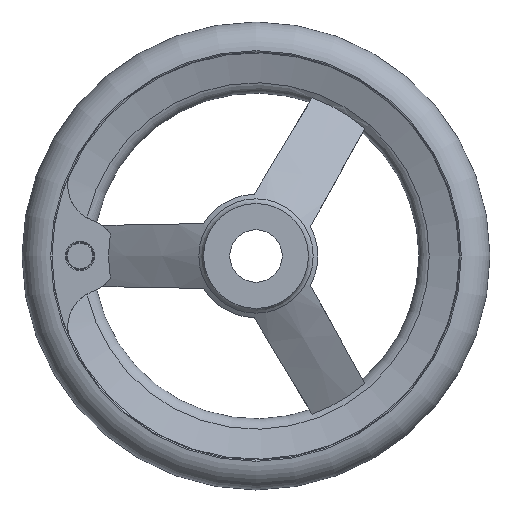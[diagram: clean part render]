
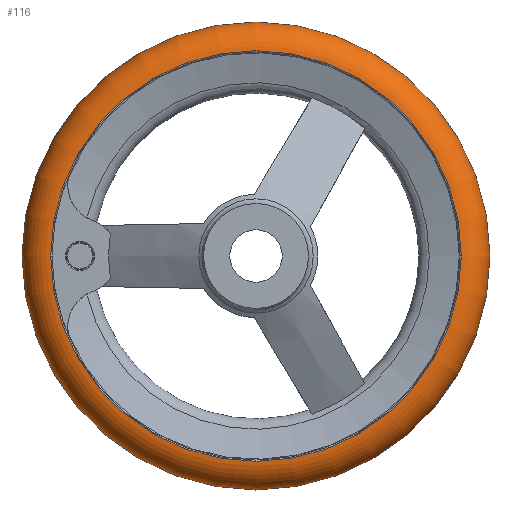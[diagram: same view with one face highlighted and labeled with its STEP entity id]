
A CAD part, left-side view. The second image highlights one B-rep face of the part: STEP entity #116.
In plain terms, the highlighted toroidal (fillet/blend) face has major radius 54.493 mm and minor radius 8.007 mm.
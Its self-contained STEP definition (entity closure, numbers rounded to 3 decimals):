
#116 = ADVANCED_FACE( '', ( #229, #230, #231 ), #232, .T. );
#229 = FACE_BOUND( '', #384, .T. );
#230 = FACE_OUTER_BOUND( '', #385, .T. );
#231 = FACE_OUTER_BOUND( '', #386, .T. );
#232 = TOROIDAL_SURFACE( '', #387, 54.493, 8.007 );
#384 = VERTEX_LOOP( '', #701 );
#385 = EDGE_LOOP( '', ( #702 ) );
#386 = EDGE_LOOP( '', ( #703 ) );
#387 = AXIS2_PLACEMENT_3D( '', #704, #705, #706 );
#701 = VERTEX_POINT( '', #828 );
#702 = ORIENTED_EDGE( '', *, *, #829, .T. );
#703 = ORIENTED_EDGE( '', *, *, #794, .F. );
#704 = CARTESIAN_POINT( '', ( 28., 0., 0. ) );
#705 = DIRECTION( '', ( 1., 0., 0. ) );
#706 = DIRECTION( '', ( 0., 1., 0. ) );
#794 = EDGE_CURVE( '', #947, #947, #948, .T. );
#828 = CARTESIAN_POINT( '', ( 28., 62.5, 0. ) );
#829 = EDGE_CURVE( '', #998, #998, #999, .T. );
#947 = VERTEX_POINT( '', #1441 );
#948 = CIRCLE( '', #1442, 54.833 );
#998 = VERTEX_POINT( '', #1552 );
#999 = CIRCLE( '', #1553, 54.833 );
#1441 = CARTESIAN_POINT( '', ( 36., 54.833, 0. ) );
#1442 = AXIS2_PLACEMENT_3D( '', #1638, #1639, #1640 );
#1552 = CARTESIAN_POINT( '', ( 20., 54.833, 0. ) );
#1553 = AXIS2_PLACEMENT_3D( '', #1709, #1710, #1711 );
#1638 = CARTESIAN_POINT( '', ( 36., 0., 0. ) );
#1639 = DIRECTION( '', ( 1., 0., 0. ) );
#1640 = DIRECTION( '', ( 0., 1., 0. ) );
#1709 = CARTESIAN_POINT( '', ( 20., 0., 0. ) );
#1710 = DIRECTION( '', ( 1., 0., 0. ) );
#1711 = DIRECTION( '', ( 0., 1., 0. ) );
